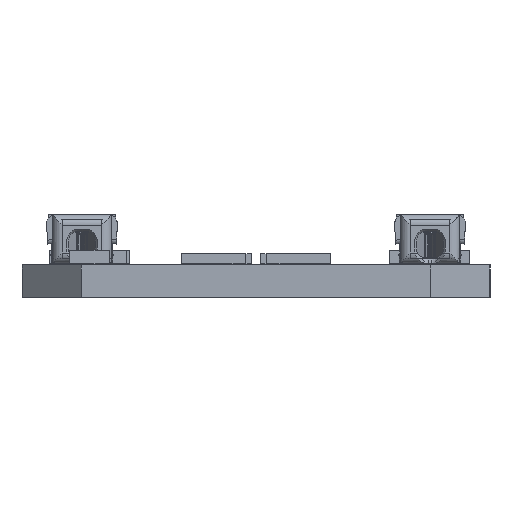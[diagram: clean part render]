
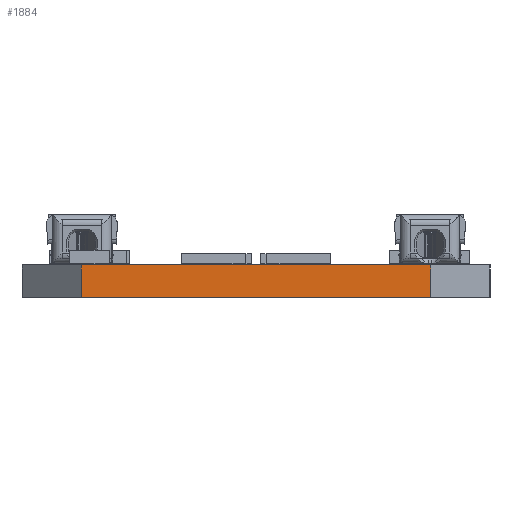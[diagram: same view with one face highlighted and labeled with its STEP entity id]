
A CAD part, left-side view. The second image highlights one B-rep face of the part: STEP entity #1884.
In plain terms, the highlighted planar face has unit normal (-1, 0, 0).
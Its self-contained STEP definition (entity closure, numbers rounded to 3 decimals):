
#797=DIRECTION('',(0.,1.,0.));
#798=VECTOR('',#797,17.6);
#799=CARTESIAN_POINT('',(-69.5,-8.8,1.65));
#800=LINE('',#799,#798);
#1041=DIRECTION('',(0.,0.,1.));
#1042=VECTOR('',#1041,1.65);
#1043=CARTESIAN_POINT('',(-69.5,8.8,0.));
#1044=LINE('',#1043,#1042);
#1083=DIRECTION('',(0.,0.,1.));
#1084=VECTOR('',#1083,1.65);
#1085=CARTESIAN_POINT('',(-69.5,-8.8,0.));
#1086=LINE('',#1085,#1084);
#1146=DIRECTION('',(0.,-1.,0.));
#1147=VECTOR('',#1146,17.6);
#1148=CARTESIAN_POINT('',(-69.5,8.8,0.));
#1149=LINE('',#1148,#1147);
#1643=CARTESIAN_POINT('',(-69.5,8.8,0.));
#1644=CARTESIAN_POINT('',(-69.5,8.8,1.65));
#1645=VERTEX_POINT('',#1643);
#1646=VERTEX_POINT('',#1644);
#1647=CARTESIAN_POINT('',(-69.5,-8.8,0.));
#1648=CARTESIAN_POINT('',(-69.5,-8.8,1.65));
#1649=VERTEX_POINT('',#1647);
#1650=VERTEX_POINT('',#1648);
#1870=CARTESIAN_POINT('',(-69.5,0.,0.825));
#1871=DIRECTION('',(1.,0.,0.));
#1872=DIRECTION('',(0.,0.,1.));
#1873=AXIS2_PLACEMENT_3D('',#1870,#1871,#1872);
#1874=PLANE('',#1873);
#1876=ORIENTED_EDGE('',*,*,#1875,.T.);
#1877=ORIENTED_EDGE('',*,*,#1780,.F.);
#1879=ORIENTED_EDGE('',*,*,#1878,.F.);
#1881=ORIENTED_EDGE('',*,*,#1880,.F.);
#1882=EDGE_LOOP('',(#1876,#1877,#1879,#1881));
#1883=FACE_OUTER_BOUND('',#1882,.F.);
#1780=EDGE_CURVE('',#1650,#1646,#800,.T.);
#1875=EDGE_CURVE('',#1645,#1646,#1044,.T.);
#1878=EDGE_CURVE('',#1649,#1650,#1086,.T.);
#1880=EDGE_CURVE('',#1645,#1649,#1149,.T.);
#1884=ADVANCED_FACE('',(#1883),#1874,.F.);
